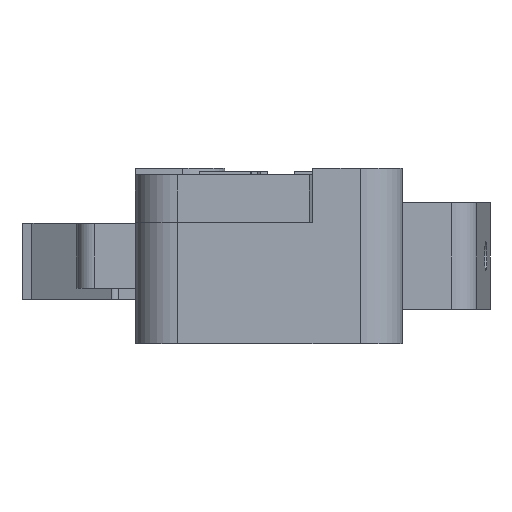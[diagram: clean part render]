
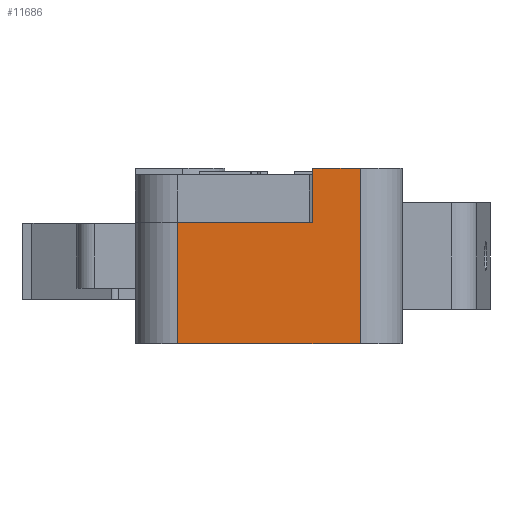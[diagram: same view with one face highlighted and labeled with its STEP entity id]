
A CAD part, left-side view. The second image highlights one B-rep face of the part: STEP entity #11686.
In plain terms, the highlighted planar face has unit normal (-1, 0, 0).
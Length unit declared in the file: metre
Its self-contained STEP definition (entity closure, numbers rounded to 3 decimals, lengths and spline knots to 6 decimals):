
#11346=CARTESIAN_POINT('',(-0.027238,-0.006323,0.022913));
#11347=VERTEX_POINT('',#11346);
#11350=CARTESIAN_POINT('',(-0.027238,-0.006323,0.030113));
#11351=DIRECTION('',(0.,0.,-1.));
#11352=VECTOR('',#11351,1.);
#11353=LINE('',#11350,#11352);
#11354=CARTESIAN_POINT('',(-0.027238,-0.006323,0.030113));
#11355=VERTEX_POINT('',#11354);
#11356=EDGE_CURVE('',#11355,#11347,#11353,.T.);
#11554=CARTESIAN_POINT('',(-0.027238,-0.017123,0.033313));
#11555=VERTEX_POINT('',#11554);
#11589=CARTESIAN_POINT('',(-0.027238,-0.014323,0.033313));
#11590=VERTEX_POINT('',#11589);
#11593=CARTESIAN_POINT('',(-0.027238,-0.014323,0.033313));
#11594=DIRECTION('',(0.,-1.,0.));
#11595=VECTOR('',#11594,1.);
#11596=LINE('',#11593,#11595);
#11597=EDGE_CURVE('',#11590,#11555,#11596,.T.);
#11626=CARTESIAN_POINT('',(-0.027238,-0.017123,0.022913));
#11627=VERTEX_POINT('',#11626);
#11639=CARTESIAN_POINT('',(-0.027238,-0.017123,0.033313));
#11640=DIRECTION('',(0.,0.,-1.));
#11641=VECTOR('',#11640,1.);
#11642=LINE('',#11639,#11641);
#11643=EDGE_CURVE('',#11555,#11627,#11642,.T.);
#11656=CARTESIAN_POINT('',(-0.027238,-0.014323,0.033313));
#11657=DIRECTION('',(1.,0.,0.));
#11658=DIRECTION('',(0.,1.,0.));
#11659=AXIS2_PLACEMENT_3D('',#11656,#11657,#11658);
#11660=PLANE('',#11659);
#11661=CARTESIAN_POINT('',(-0.027238,-0.014323,0.022913));
#11662=DIRECTION('',(0.,-1.,0.));
#11663=VECTOR('',#11662,1.);
#11664=LINE('',#11661,#11663);
#11665=EDGE_CURVE('',#11347,#11627,#11664,.T.);
#11666=ORIENTED_EDGE('',*,*,#11665,.T.);
#11667=ORIENTED_EDGE('',*,*,#11643,.F.);
#11668=ORIENTED_EDGE('',*,*,#11597,.F.);
#11669=CARTESIAN_POINT('',(-0.027238,-0.014323,0.033313));
#11670=DIRECTION('',(0.,0.,-1.));
#11671=VECTOR('',#11670,1.);
#11672=LINE('',#11669,#11671);
#11673=CARTESIAN_POINT('',(-0.027238,-0.014323,0.030113));
#11674=VERTEX_POINT('',#11673);
#11675=EDGE_CURVE('',#11590,#11674,#11672,.T.);
#11676=ORIENTED_EDGE('',*,*,#11675,.T.);
#11677=CARTESIAN_POINT('',(-0.027238,-0.011723,0.030113));
#11678=DIRECTION('',(0.,-1.,0.));
#11679=VECTOR('',#11678,1.);
#11680=LINE('',#11677,#11679);
#11681=EDGE_CURVE('',#11355,#11674,#11680,.T.);
#11682=ORIENTED_EDGE('',*,*,#11681,.F.);
#11683=ORIENTED_EDGE('',*,*,#11356,.T.);
#11684=EDGE_LOOP('',(#11666,#11667,#11668,#11676,#11682,#11683));
#11685=FACE_BOUND('',#11684,.T.);
#11686=ADVANCED_FACE('',(#11685),#11660,.F.);
